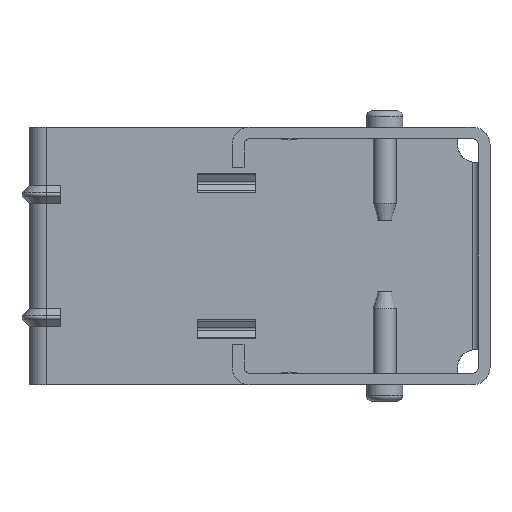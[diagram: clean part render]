
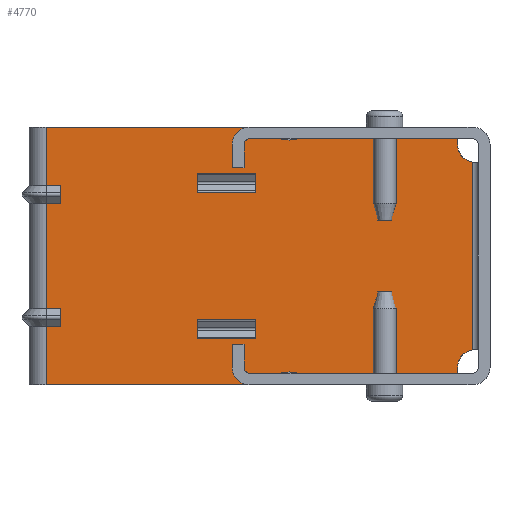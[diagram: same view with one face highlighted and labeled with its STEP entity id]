
A CAD part, left-side view. The second image highlights one B-rep face of the part: STEP entity #4770.
In plain terms, the highlighted planar face has unit normal (-1, 0, 0).
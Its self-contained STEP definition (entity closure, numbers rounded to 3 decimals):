
#267=LINE('',#7236,#739);
#268=LINE('',#7242,#740);
#429=LINE('',#7690,#901);
#430=LINE('',#7696,#902);
#431=LINE('',#7699,#903);
#432=LINE('',#7701,#904);
#433=LINE('',#7703,#905);
#434=LINE('',#7704,#906);
#435=LINE('',#7707,#907);
#436=LINE('',#7709,#908);
#437=LINE('',#7711,#909);
#438=LINE('',#7712,#910);
#439=LINE('',#7715,#911);
#440=LINE('',#7716,#912);
#441=LINE('',#7718,#913);
#442=LINE('',#7722,#914);
#443=LINE('',#7726,#915);
#444=LINE('',#7728,#916);
#445=LINE('',#7729,#917);
#446=LINE('',#7731,#918);
#447=LINE('',#7733,#919);
#448=LINE('',#7734,#920);
#739=VECTOR('',#5725,1000.);
#740=VECTOR('',#5732,1000.);
#901=VECTOR('',#6095,1000.);
#902=VECTOR('',#6102,1000.);
#903=VECTOR('',#6103,1000.);
#904=VECTOR('',#6104,1000.);
#905=VECTOR('',#6105,1000.);
#906=VECTOR('',#6106,1000.);
#907=VECTOR('',#6107,1000.);
#908=VECTOR('',#6108,1000.);
#909=VECTOR('',#6109,1000.);
#910=VECTOR('',#6110,1000.);
#911=VECTOR('',#6111,1000.);
#912=VECTOR('',#6112,1000.);
#913=VECTOR('',#6113,1000.);
#914=VECTOR('',#6116,1000.);
#915=VECTOR('',#6119,1000.);
#916=VECTOR('',#6120,1000.);
#917=VECTOR('',#6121,1000.);
#918=VECTOR('',#6122,1000.);
#919=VECTOR('',#6123,1000.);
#920=VECTOR('',#6124,1000.);
#1681=ORIENTED_EDGE('',*,*,#2893,.F.);
#1682=ORIENTED_EDGE('',*,*,#2894,.T.);
#1683=ORIENTED_EDGE('',*,*,#2895,.T.);
#1684=ORIENTED_EDGE('',*,*,#2896,.F.);
#1685=ORIENTED_EDGE('',*,*,#2897,.F.);
#1686=ORIENTED_EDGE('',*,*,#2898,.T.);
#1687=ORIENTED_EDGE('',*,*,#2899,.T.);
#1688=ORIENTED_EDGE('',*,*,#2900,.F.);
#1689=ORIENTED_EDGE('',*,*,#2901,.T.);
#1690=ORIENTED_EDGE('',*,*,#2902,.T.);
#1691=ORIENTED_EDGE('',*,*,#2890,.T.);
#1692=ORIENTED_EDGE('',*,*,#2903,.T.);
#1693=ORIENTED_EDGE('',*,*,#2904,.T.);
#1694=ORIENTED_EDGE('',*,*,#2905,.T.);
#1695=ORIENTED_EDGE('',*,*,#2906,.F.);
#1696=ORIENTED_EDGE('',*,*,#2907,.T.);
#1697=ORIENTED_EDGE('',*,*,#2908,.T.);
#1698=ORIENTED_EDGE('',*,*,#2909,.F.);
#1699=ORIENTED_EDGE('',*,*,#2666,.T.);
#1700=ORIENTED_EDGE('',*,*,#2910,.F.);
#1701=ORIENTED_EDGE('',*,*,#2911,.T.);
#1702=ORIENTED_EDGE('',*,*,#2912,.T.);
#1703=ORIENTED_EDGE('',*,*,#2663,.T.);
#1704=ORIENTED_EDGE('',*,*,#2913,.F.);
#2663=EDGE_CURVE('',#3335,#3334,#267,.T.);
#2666=EDGE_CURVE('',#3337,#3336,#268,.T.);
#2890=EDGE_CURVE('',#3510,#3511,#429,.T.);
#2893=EDGE_CURVE('',#3512,#3513,#430,.T.);
#2894=EDGE_CURVE('',#3512,#3514,#431,.T.);
#2895=EDGE_CURVE('',#3514,#3515,#432,.T.);
#2896=EDGE_CURVE('',#3513,#3515,#433,.T.);
#2897=EDGE_CURVE('',#3516,#3517,#434,.T.);
#2898=EDGE_CURVE('',#3516,#3518,#435,.T.);
#2899=EDGE_CURVE('',#3518,#3519,#436,.T.);
#2900=EDGE_CURVE('',#3517,#3519,#437,.T.);
#2901=EDGE_CURVE('',#3520,#3521,#438,.T.);
#2902=EDGE_CURVE('',#3521,#3510,#439,.T.);
#2903=EDGE_CURVE('',#3511,#3522,#440,.T.);
#2904=EDGE_CURVE('',#3522,#3523,#441,.T.);
#2905=EDGE_CURVE('',#3523,#3524,#3796,.T.);
#2906=EDGE_CURVE('',#3525,#3524,#442,.T.);
#2907=EDGE_CURVE('',#3525,#3526,#3797,.T.);
#2908=EDGE_CURVE('',#3526,#3527,#443,.T.);
#2909=EDGE_CURVE('',#3337,#3527,#444,.T.);
#2910=EDGE_CURVE('',#3528,#3336,#445,.T.);
#2911=EDGE_CURVE('',#3528,#3529,#446,.T.);
#2912=EDGE_CURVE('',#3529,#3335,#447,.T.);
#2913=EDGE_CURVE('',#3520,#3334,#448,.T.);
#3334=VERTEX_POINT('',#7235);
#3335=VERTEX_POINT('',#7237);
#3336=VERTEX_POINT('',#7241);
#3337=VERTEX_POINT('',#7243);
#3510=VERTEX_POINT('',#7691);
#3511=VERTEX_POINT('',#7692);
#3512=VERTEX_POINT('',#7697);
#3513=VERTEX_POINT('',#7698);
#3514=VERTEX_POINT('',#7700);
#3515=VERTEX_POINT('',#7702);
#3516=VERTEX_POINT('',#7705);
#3517=VERTEX_POINT('',#7706);
#3518=VERTEX_POINT('',#7708);
#3519=VERTEX_POINT('',#7710);
#3520=VERTEX_POINT('',#7713);
#3521=VERTEX_POINT('',#7714);
#3522=VERTEX_POINT('',#7717);
#3523=VERTEX_POINT('',#7719);
#3524=VERTEX_POINT('',#7721);
#3525=VERTEX_POINT('',#7723);
#3526=VERTEX_POINT('',#7725);
#3527=VERTEX_POINT('',#7727);
#3528=VERTEX_POINT('',#7730);
#3529=VERTEX_POINT('',#7732);
#3796=CIRCLE('',#5172,3.);
#3797=CIRCLE('',#5173,3.);
#4026=EDGE_LOOP('',(#1681,#1682,#1683,#1684));
#4027=EDGE_LOOP('',(#1685,#1686,#1687,#1688));
#4028=EDGE_LOOP('',(#1689,#1690,#1691,#1692,#1693,#1694,#1695,#1696,#1697,
#1698,#1699,#1700,#1701,#1702,#1703,#1704));
#4344=FACE_BOUND('',#4026,.T.);
#4345=FACE_BOUND('',#4027,.T.);
#4346=FACE_BOUND('',#4028,.T.);
#4583=PLANE('',#5171);
#4770=ADVANCED_FACE('',(#4344,#4345,#4346),#4583,.F.);
#5171=AXIS2_PLACEMENT_3D('',#7695,#6100,#6101);
#5172=AXIS2_PLACEMENT_3D('',#7720,#6114,#6115);
#5173=AXIS2_PLACEMENT_3D('',#7724,#6117,#6118);
#5725=DIRECTION('',(0.,0.,-1.));
#5732=DIRECTION('',(0.,0.,-1.));
#6095=DIRECTION('',(0.,0.,-1.));
#6100=DIRECTION('',(1.,0.,0.));
#6101=DIRECTION('',(0.,0.,-1.));
#6102=DIRECTION('',(0.,-1.,0.));
#6103=DIRECTION('',(0.,0.,1.));
#6104=DIRECTION('',(0.,-1.,0.));
#6105=DIRECTION('',(0.,0.,1.));
#6106=DIRECTION('',(0.,-1.,0.));
#6107=DIRECTION('',(0.,0.,1.));
#6108=DIRECTION('',(0.,-1.,0.));
#6109=DIRECTION('',(0.,0.,1.));
#6110=DIRECTION('',(0.,0.,-1.));
#6111=DIRECTION('',(0.,1.,0.));
#6112=DIRECTION('',(0.,-1.,0.));
#6113=DIRECTION('',(0.,0.,1.));
#6114=DIRECTION('',(1.,0.,0.));
#6115=DIRECTION('',(0.,0.,-1.));
#6116=DIRECTION('',(0.,0.,-1.));
#6117=DIRECTION('',(1.,0.,0.));
#6118=DIRECTION('',(0.,0.,-1.));
#6119=DIRECTION('',(0.,0.,1.));
#6120=DIRECTION('',(0.,-1.,0.));
#6121=DIRECTION('',(0.,1.,0.));
#6122=DIRECTION('',(0.,0.,-1.));
#6123=DIRECTION('',(0.,1.,0.));
#6124=DIRECTION('',(0.,1.,0.));
#7235=CARTESIAN_POINT('',(60.,75.8,-9.));
#7236=CARTESIAN_POINT('',(60.,75.8,22.));
#7237=CARTESIAN_POINT('',(60.,75.8,9.));
#7241=CARTESIAN_POINT('',(60.,75.8,12.));
#7242=CARTESIAN_POINT('',(60.,75.8,22.));
#7243=CARTESIAN_POINT('',(60.,75.8,22.));
#7690=CARTESIAN_POINT('',(60.,75.8,22.));
#7691=CARTESIAN_POINT('',(60.,75.8,-12.));
#7692=CARTESIAN_POINT('',(60.,75.8,-22.));
#7695=CARTESIAN_POINT('',(60.,75.8,22.));
#7696=CARTESIAN_POINT('',(60.,50.,-14.121));
#7697=CARTESIAN_POINT('',(60.,50.,-14.121));
#7698=CARTESIAN_POINT('',(60.,40.,-14.121));
#7699=CARTESIAN_POINT('',(60.,50.,-14.121));
#7700=CARTESIAN_POINT('',(60.,50.,-10.879));
#7701=CARTESIAN_POINT('',(60.,50.,-10.879));
#7702=CARTESIAN_POINT('',(60.,40.,-10.879));
#7703=CARTESIAN_POINT('',(60.,40.,-14.121));
#7704=CARTESIAN_POINT('',(60.,50.,10.879));
#7705=CARTESIAN_POINT('',(60.,50.,10.879));
#7706=CARTESIAN_POINT('',(60.,40.,10.879));
#7707=CARTESIAN_POINT('',(60.,50.,10.879));
#7708=CARTESIAN_POINT('',(60.,50.,14.121));
#7709=CARTESIAN_POINT('',(60.,50.,14.121));
#7710=CARTESIAN_POINT('',(60.,40.,14.121));
#7711=CARTESIAN_POINT('',(60.,40.,10.879));
#7712=CARTESIAN_POINT('',(60.,73.3,-9.));
#7713=CARTESIAN_POINT('',(60.,73.3,-9.));
#7714=CARTESIAN_POINT('',(60.,73.3,-12.));
#7715=CARTESIAN_POINT('',(60.,73.3,-12.));
#7716=CARTESIAN_POINT('',(60.,75.8,-22.));
#7717=CARTESIAN_POINT('',(60.,5.539,-22.));
#7718=CARTESIAN_POINT('',(60.,5.539,22.));
#7719=CARTESIAN_POINT('',(60.,5.539,-19.));
#7720=CARTESIAN_POINT('',(60.,2.539,-19.));
#7721=CARTESIAN_POINT('',(60.,3.,-16.036));
#7722=CARTESIAN_POINT('',(60.,3.,22.));
#7723=CARTESIAN_POINT('',(60.,3.,16.036));
#7724=CARTESIAN_POINT('',(60.,2.539,19.));
#7725=CARTESIAN_POINT('',(60.,5.539,19.));
#7726=CARTESIAN_POINT('',(60.,5.539,22.));
#7727=CARTESIAN_POINT('',(60.,5.539,22.));
#7728=CARTESIAN_POINT('',(60.,75.8,22.));
#7729=CARTESIAN_POINT('',(60.,73.3,12.));
#7730=CARTESIAN_POINT('',(60.,73.3,12.));
#7731=CARTESIAN_POINT('',(60.,73.3,12.));
#7732=CARTESIAN_POINT('',(60.,73.3,9.));
#7733=CARTESIAN_POINT('',(60.,73.3,9.));
#7734=CARTESIAN_POINT('',(60.,73.3,-9.));
